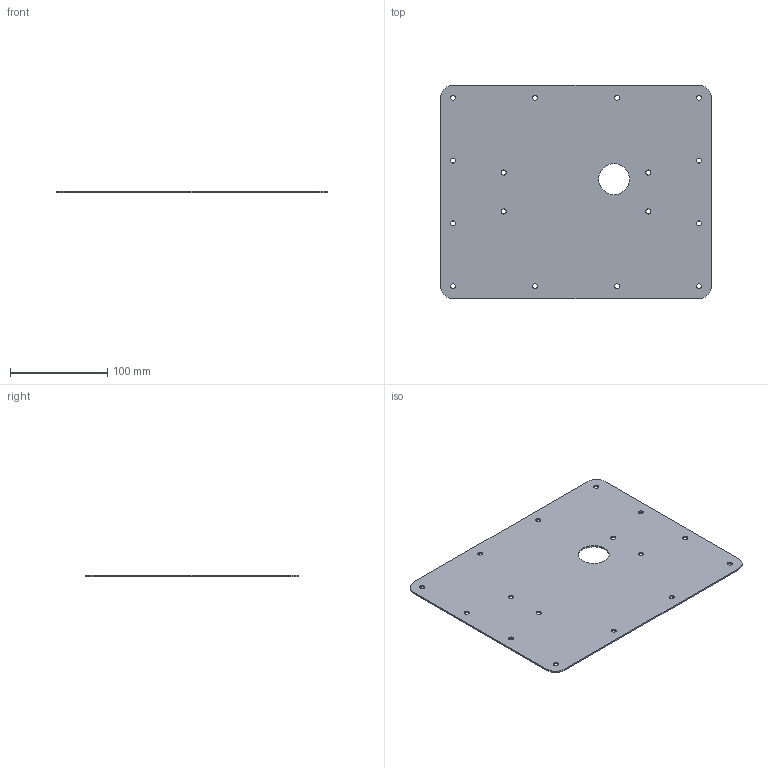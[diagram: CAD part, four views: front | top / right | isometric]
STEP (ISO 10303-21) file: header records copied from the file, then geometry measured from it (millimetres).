
FILE_DESCRIPTION (( 'STEP AP214' ), '1' );
FILE_NAME ('Mounting Plate_HI3000 Series Migration to HI 6800 Series.STEP', '2024-12-20T19:11:16', ( '' ), ( '' ), 'SwSTEP 2.0', 'SolidWorks 2023', '' );
FILE_SCHEMA (( 'AUTOMOTIVE_DESIGN' ));
Length unit declared in the file: inch
Products named in the file (1): Mounting Plate_HI3000 Series Migration to HI 6800 Series
Bounding box: 277.88 x 218.95 x 1.52 mm (x, y, z)
Volume: 90482.7 mm3; surface area: 121165.5 mm2
Topology: 1 solids, 1 shells, 27 faces, 75 edges, 50 vertices
Faces by surface type: cylinder 21, plane 6
Full cylindrical faces by diameter (mm): 5.2 x16, 31.75 x1
Entity records: 901 total; most frequent: DIRECTION 156, CARTESIAN_POINT 136, ORIENTED_EDGE 116, EDGE_LOOP 78, AXIS2_PLACEMENT_3D 70, EDGE_CURVE 58, VERTEX_POINT 50, FACE_OUTER_BOUND 44
